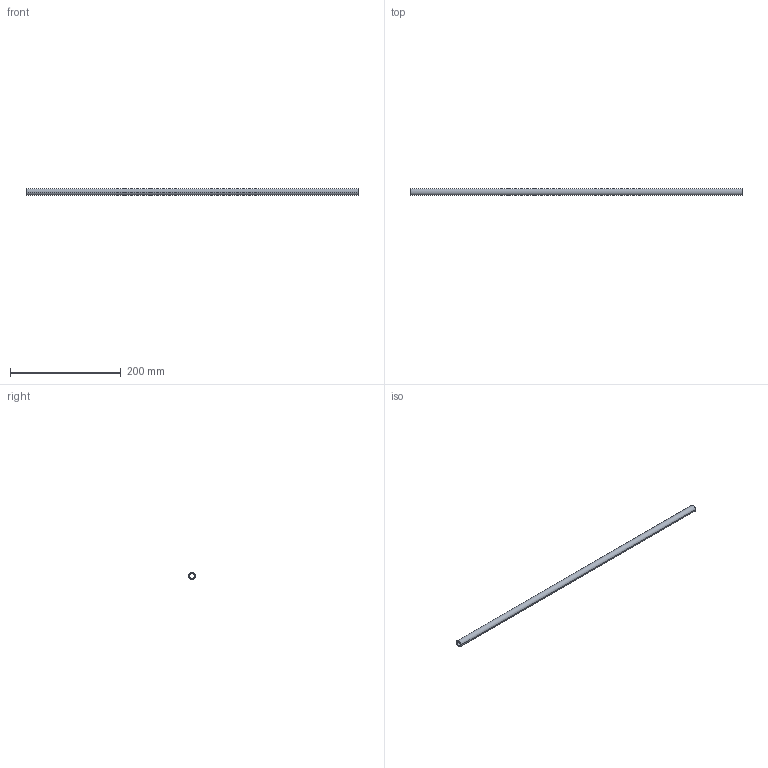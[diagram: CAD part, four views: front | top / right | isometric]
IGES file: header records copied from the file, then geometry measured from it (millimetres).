
Start section: START RECORD GO HERE.
Global section: file name: te128600.igs; native system: DASSAULT SYSTEMES CATIA V5 R20 - www.3ds.com; preprocessor: CATIA Version 5 Release 20 ; author: Utente; organization: NB04-ASUS; date: 20201107.142417; units: millimetre
Bounding box: 600 x 12 x 12 mm (x, y, z)
Surface area: 38173.5 mm2 (no closed solid volume)
Topology: 0 solids, 0 shells, 9 faces, 36 edges, 36 vertices
Faces by surface type: revolution 6, plane 3
